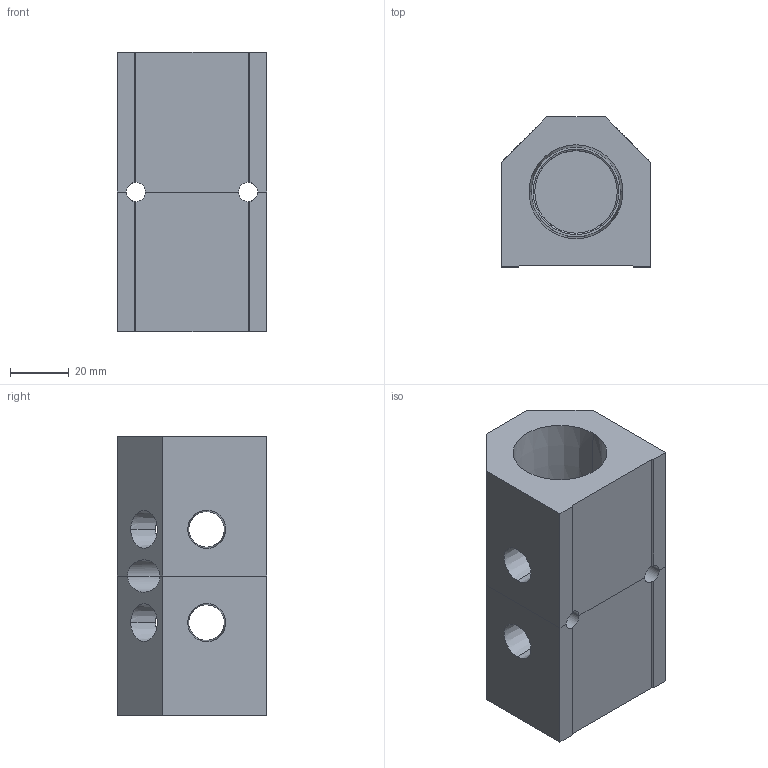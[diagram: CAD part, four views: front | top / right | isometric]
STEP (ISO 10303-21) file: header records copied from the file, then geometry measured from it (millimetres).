
FILE_DESCRIPTION (( 'STEP AP214' ), '1' );
FILE_NAME ('ALM2ABCDE-N4N16-95RB.STEP', '2023-11-02T06:06:35', ( '' ), ( '' ), 'SwSTEP 2.0', 'SolidWorks 2020', '' );
FILE_SCHEMA (( 'AUTOMOTIVE_DESIGN' ));
Length unit declared in the file: millimetre
Products named in the file (1): ALM2ABCDE-N4N16-95RB
Bounding box: 50.8 x 50.8 x 95 mm (x, y, z)
Volume: 137882.2 mm3; surface area: 38251.5 mm2
Topology: 2 solids, 2 shells, 377 faces, 998 edges, 662 vertices
Faces by surface type: plane 257, bspline 72, cone 28, cylinder 20
Entity records: 20411 total; most frequent: CARTESIAN_POINT 8070, ORIENTED_EDGE 1996, DIRECTION 1492, EDGE_CURVE 998, VECTOR 752, LINE 752, VERTEX_POINT 662, EDGE_LOOP 434
